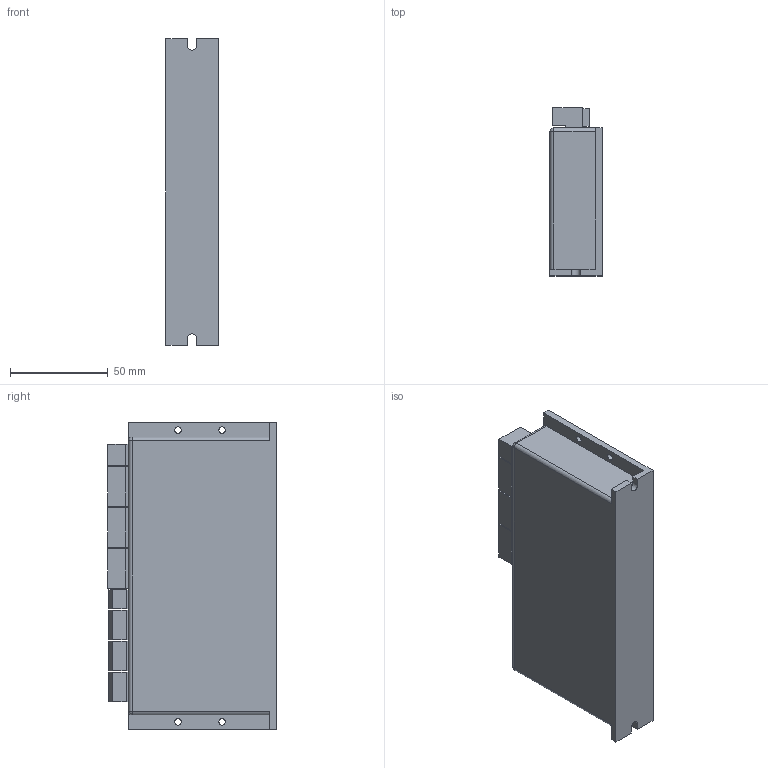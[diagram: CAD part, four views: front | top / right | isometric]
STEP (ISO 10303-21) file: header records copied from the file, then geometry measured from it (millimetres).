
FILE_DESCRIPTION((''),'2;1');
FILE_NAME('TD545-C','2024-06-23T17:19:41',('jason'),(''),'CREO PARAMETRIC BY PTC INC, 2022073','CREO PARAMETRIC BY PTC INC, 2022073','');
FILE_SCHEMA(('CONFIG_CONTROL_DESIGN'));
Length unit declared in the file: millimetre
Products named in the file (1): TD545-C
Bounding box: 26.8 x 86.01 x 156.5 mm (x, y, z)
Volume: 308395.2 mm3; surface area: 41964.6 mm2
Topology: 1 solids, 1 shells, 103 faces, 273 edges, 180 vertices
Faces by surface type: plane 86, cylinder 15, sphere 2
Entity records: 3203 total; most frequent: CARTESIAN_POINT 556, ORIENTED_EDGE 546, DIRECTION 509, EDGE_CURVE 273, VECTOR 243, LINE 243, VERTEX_POINT 180, AXIS2_PLACEMENT_3D 133
